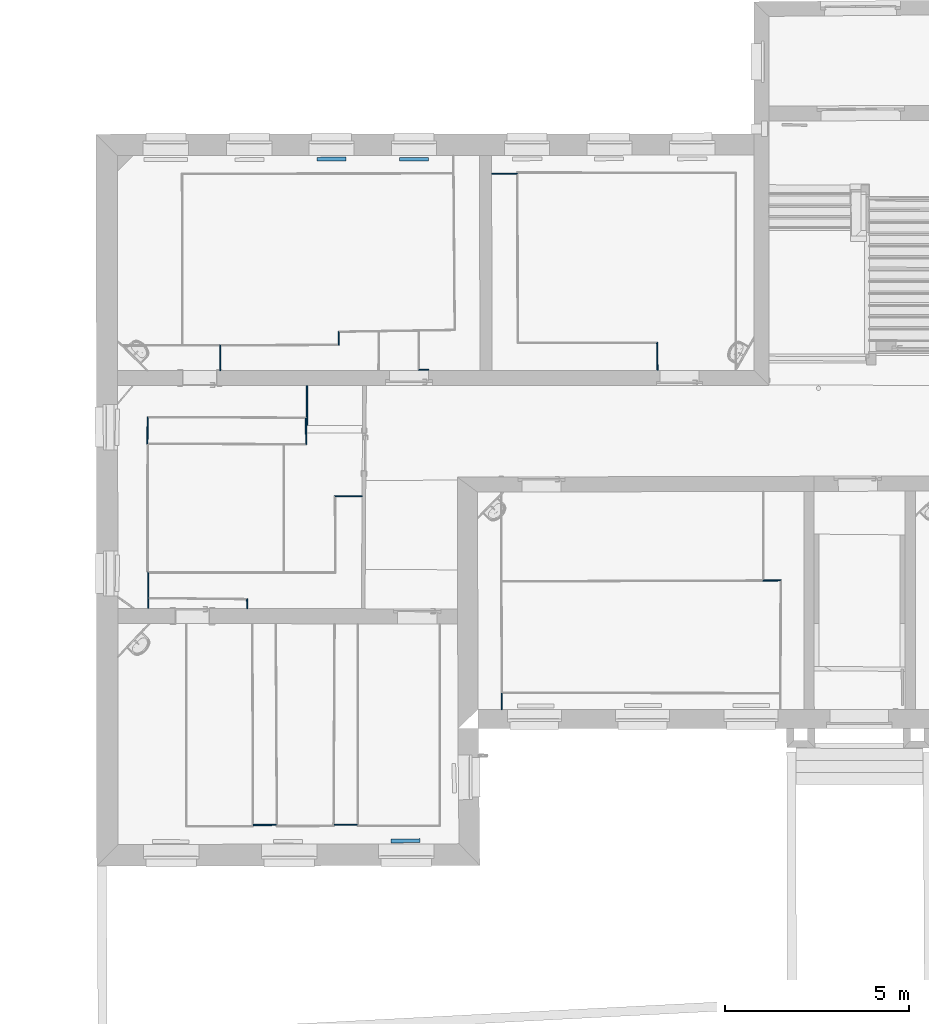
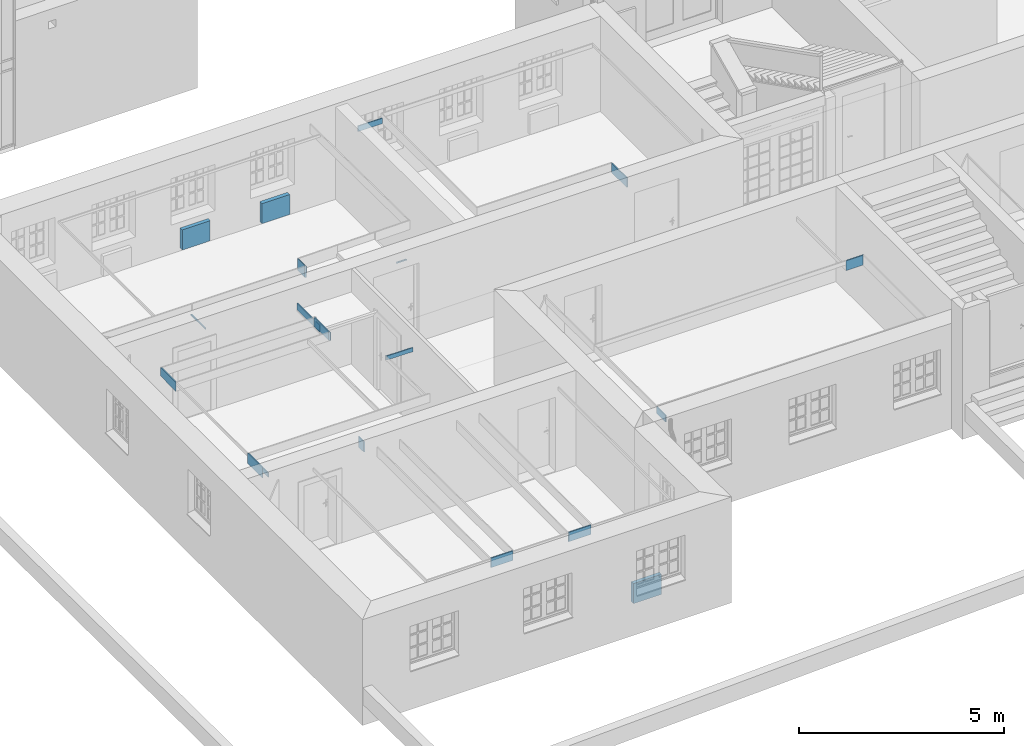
# One storey, part 58 of 196: 20 walls.
"""IFC2X3 building model written with IfcOpenShell, lengths in metres."""

from ifc_helpers import new_model, entity, si_unit, converted_unit, derived_unit, money_unit, direction, frame, origin_with_axes, place, context, subcontext, project, spatial, polyline, outline, extrude, material, layer, layer_set, layer_usage, type_object, element, save


model = new_model("IFC2X3")

# Units and contexts
model_context = context("Model", 3, precision=1e-05, world=origin_with_axes(), true_north=direction((0.0, 1.0)))
body_context = subcontext(model_context, "Body", "Model", "MODEL_VIEW")
ifc_project = project(units=[si_unit("LENGTHUNIT", "METRE"), si_unit("AREAUNIT", "SQUARE_METRE"), si_unit("VOLUMEUNIT", "CUBIC_METRE"), converted_unit("PLANEANGLEUNIT", "DEGREE", entity("IfcPlaneAngleMeasure", 0.0174532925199), si_unit("PLANEANGLEUNIT", "RADIAN"), dimensions=[0, 0, 0, 0, 0, 0, 0]), money_unit("EUR"), converted_unit("TIMEUNIT", "Year", entity("IfcTimeMeasure", 31556926.0), si_unit("TIMEUNIT", "SECOND"), dimensions=[0, 0, 1, 0, 0, 0, 0]), si_unit("MASSUNIT", "GRAM", prefix="KILO"), si_unit("THERMODYNAMICTEMPERATUREUNIT", "DEGREE_CELSIUS"), si_unit("LUMINOUSINTENSITYUNIT", "LUMEN"), si_unit("ENERGYUNIT", "JOULE", prefix="MEGA"), derived_unit("THERMALCONDUCTANCEUNIT", [(si_unit("POWERUNIT", "WATT"), 1), (si_unit("LENGTHUNIT", "METRE"), -1), (si_unit("THERMODYNAMICTEMPERATUREUNIT", "KELVIN"), -1)]), derived_unit("SPECIFICHEATCAPACITYUNIT", [(si_unit("ENERGYUNIT", "JOULE"), 1), (si_unit("MASSUNIT", "GRAM", prefix="KILO"), -1), (si_unit("THERMODYNAMICTEMPERATUREUNIT", "KELVIN"), -1)]), derived_unit("MASSDENSITYUNIT", [(si_unit("MASSUNIT", "GRAM", prefix="KILO"), 1), (si_unit("VOLUMEUNIT", "CUBIC_METRE"), -1)])], contexts=[model_context])

# Site, building, storey
site_placement = place(None, origin_with_axes())
site = spatial("IfcSite", under=ifc_project, at=site_placement, Name="Gelände", CompositionType="ELEMENT")
building_placement = place(site_placement, origin_with_axes())
building = spatial("IfcBuilding", under=site, at=building_placement, Name="Gebäude", CompositionType="ELEMENT")
storey_placement = place(building_placement, frame((0.0, 0.0, -3.0), z_axis=(0.0, 0.0, 1.0), x_axis=(1.0, 0.0, 0.0)))
storey = spatial("IfcBuildingStorey", under=building, at=storey_placement, Name="KELLERGESCHOSS", CompositionType="ELEMENT", Elevation=-3.0)

# Walls
ifc_material_1 = material(Name="43_Gipskarton")
ifc_layer_1 = layer(ifc_material_1, 0.03, ventilated="UNKNOWN")
ifc_layer_set_1 = layer_set([ifc_layer_1], Name="43_Gipskarton 0.03")
ifc_layer_usage_1 = layer_usage(ifc_layer_set_1, "AXIS2", "NEGATIVE", 0.03)
wall_type_1 = type_object("IfcWallType", Name="43_Gipskarton 30", PredefinedType="ELEMENTEDWALL")
wall_1_placement = place(storey_placement, frame((-24.7641975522, 20.3740918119, 2.09), z_axis=(0.0, 0.0, 1.0), x_axis=(0.000311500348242, -0.999999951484, 0.0)))
element("IfcWallStandardCase", 1, at=wall_1_placement, inside=storey, type_object=wall_type_1, material=ifc_layer_usage_1, Name="Wand-039", ObjectType="ELEMENTEDWALL", context=body_context, shape_type="SweptSolid", body=[
    extrude(outline(polyline([(0.0, 0.0), (0.702232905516, 0.0), (0.702232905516, 0.03), (0.0299168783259, 0.03), (0.0, 0.0)])), origin_with_axes(), (0.0, 0.0, 1.0), 0.04),
])
ifc_layer_usage_2 = layer_usage(ifc_layer_set_1, "AXIS2", "NEGATIVE", 0.0)
wall_2_placement = place(storey_placement, frame((-21.5516281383, 20.3840060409, 2.09), z_axis=(0.0, 0.0, 1.0), x_axis=(-0.000432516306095, 0.999999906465, 0.0)))
element("IfcWallStandardCase", 2, at=wall_2_placement, inside=storey, type_object=wall_type_1, material=ifc_layer_usage_2, Name="Wand-040", ObjectType="ELEMENTEDWALL", context=body_context, shape_type="SweptSolid", body=[
    extrude(outline(polyline([(-0.0299204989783, -0.03), (0.327169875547, -0.03), (0.356711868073, 0.0), (0.0, 0.0), (-0.0299204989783, -0.03)])), origin_with_axes(), (0.0, 0.0, 1.0), 0.35),
])
ifc_layer_usage_3 = layer_usage(ifc_layer_set_1, "AXIS2", "NEGATIVE", 0.03)
wall_3_placement = place(storey_placement, frame((-19.3750596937, 19.6733486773, 2.17), z_axis=(0.0, 0.0, 1.0), x_axis=(0.999999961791, 0.000276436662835, 0.0)))
element("IfcWallStandardCase", 3, at=wall_3_placement, inside=storey, type_object=wall_type_1, material=ifc_layer_usage_3, Name="Wand-040", ObjectType="ELEMENTEDWALL", context=body_context, shape_type="SweptSolid", body=[
    extrude(outline(polyline([(0.0, 0.0), (0.284594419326, 0.0), (0.284594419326, 0.03), (0.0300248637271, 0.03), (0.0, 0.0)])), origin_with_axes(), (0.0, 0.0, 1.0), 0.02),
])
ifc_layer_usage_4 = layer_usage(ifc_layer_set_1, "AXIS2", "NEGATIVE", 0.0)
wall_4_placement = place(storey_placement, frame((-12.8690663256, 20.4433038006, 2.16), z_axis=(0.0, 0.0, 1.0), x_axis=(0.0190736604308, -0.999818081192, 0.0)))
element("IfcWallStandardCase", 4, at=wall_4_placement, inside=storey, type_object=wall_type_1, material=ifc_layer_usage_4, Name="Wand-044", ObjectType="ELEMENTEDWALL", context=body_context, shape_type="SweptSolid", body=[
    extrude(outline(polyline([(0.0294475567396, -0.03), (0.767728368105, -0.03), (0.768292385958, 0.0), (0.0, 0.0), (0.0294475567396, -0.03)])), origin_with_axes(), (0.0, 0.0, 1.0), 0.28),
])
ifc_layer_usage_5 = layer_usage(ifc_layer_set_1, "AXIS2", "NEGATIVE", 0.03)
wall_5_placement = place(storey_placement, frame((-22.410251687, 19.2625095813, 2.09963508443), z_axis=(0.0, 0.0, 1.0), x_axis=(-0.000729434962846, -0.999999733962, 0.0)))
element("IfcWallStandardCase", 5, at=wall_5_placement, inside=storey, type_object=wall_type_1, material=ifc_layer_usage_5, Name="Wand-045", ObjectType="ELEMENTEDWALL", context=body_context, shape_type="SweptSolid", body=[
    extrude(outline(polyline([(0.0, 0.0), (0.856344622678, 0.0), (0.886408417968, 0.03), (-3.01761609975e-05, 0.03), (0.0, 0.0)])), origin_with_axes(), (0.0, 0.0, 1.0), 0.200364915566),
])
ifc_layer_usage_6 = layer_usage(ifc_layer_set_1, "AXIS2", "NEGATIVE", 0.03)
wall_6_placement = place(storey_placement, frame((-22.4108763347, 18.4061651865, 2.09963508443), z_axis=(0.0, 0.0, 1.0), x_axis=(0.00827161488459, -0.999965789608, 0.0)))
element("IfcWallStandardCase", 6, at=wall_6_placement, inside=storey, type_object=wall_type_1, material=ifc_layer_usage_6, Name="Wand-045", ObjectType="ELEMENTEDWALL", context=body_context, shape_type="SweptSolid", body=[
    extrude(outline(polyline([(0.0300018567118, 0.0), (0.224946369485, 0.0), (0.224946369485, 0.03), (0.0303356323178, 0.03), (0.0300018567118, 0.0)])), origin_with_axes(), (0.0, 0.0, 1.0), 0.200364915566),
])
ifc_layer_usage_7 = layer_usage(ifc_layer_set_1, "AXIS2", "NEGATIVE", 0.0)
wall_7_placement = place(storey_placement, frame((-22.4108763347, 18.4061651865, 2.16), z_axis=(0.0, 0.0, 1.0), x_axis=(0.00827161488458, -0.999965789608, 0.0)))
element("IfcWallStandardCase", 7, at=wall_7_placement, inside=storey, type_object=wall_type_1, material=ifc_layer_usage_7, Name="Wand-045", ObjectType="ELEMENTEDWALL", context=body_context, shape_type="SweptSolid", body=[
    extrude(outline(polyline([(0.0296680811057, -0.03), (0.721905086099, -0.03), (0.752248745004, 0.0), (0.0300018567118, 0.0), (0.0296680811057, -0.03)])), origin_with_axes(), (0.0, 0.0, 1.0), 0.26),
])
ifc_layer_usage_8 = layer_usage(ifc_layer_set_1, "AXIS2", "NEGATIVE", 0.03)
wall_8_placement = place(storey_placement, frame((-16.664766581, 25.0380456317, 2.16), z_axis=(0.0, 0.0, 1.0), x_axis=(-0.999999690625, 0.00078660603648, 0.0)))
element("IfcWallStandardCase", 8, at=wall_8_placement, inside=storey, type_object=wall_type_1, material=ifc_layer_usage_8, Name="Wand-046", ObjectType="ELEMENTEDWALL", context=body_context, shape_type="SweptSolid", body=[
    extrude(outline(polyline([(0.0, 0.0), (0.714397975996, 0.0), (0.714294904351, 0.03), (0.0299269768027, 0.03), (0.0, 0.0)])), origin_with_axes(), (0.0, 0.0, 1.0), 0.16),
])
ifc_layer_usage_9 = layer_usage(ifc_layer_set_1, "AXIS2", "NEGATIVE", 0.03)
wall_9_placement = place(storey_placement, frame((-26.7422881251, 18.4185257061, 2.16), z_axis=(0.0, 0.0, 1.0), x_axis=(-0.00799408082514, -0.999968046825, 0.0)))
element("IfcWallStandardCase", 9, at=wall_9_placement, inside=storey, type_object=wall_type_1, material=ifc_layer_usage_9, Name="Wand-047", ObjectType="ELEMENTEDWALL", context=body_context, shape_type="SweptSolid", body=[
    extrude(outline(polyline([(0.0, 0.0), (0.751063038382, 0.0), (0.720916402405, 0.03), (0.0298461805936, 0.03), (0.0, 0.0)])), origin_with_axes(), (0.0, 0.0, 1.0), 0.26),
])
ifc_layer_usage_10 = layer_usage(ifc_layer_set_1, "AXIS2", "NEGATIVE", 0.03)
wall_10_placement = place(storey_placement, frame((-26.7248672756, 13.5035001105, 2.3), z_axis=(0.0, 0.0, 1.0), x_axis=(-3.30260602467e-05, -0.999999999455, 0.0)))
element("IfcWallStandardCase", 10, at=wall_10_placement, inside=storey, type_object=wall_type_1, material=ifc_layer_usage_10, Name="Wand-050", ObjectType="ELEMENTEDWALL", context=body_context, shape_type="SweptSolid", body=[
    extrude(outline(polyline([(0.0300016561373, 0.0), (0.299256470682, 0.0), (0.299290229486, 0.03), (0.0303168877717, 0.03), (0.0300016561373, 0.0)])), origin_with_axes(), (0.0, 0.0, 1.0), 0.12),
])
ifc_layer_usage_11 = layer_usage(ifc_layer_set_1, "AXIS2", "NEGATIVE", 0.03)
wall_11_placement = place(storey_placement, frame((-26.7248443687, 14.1971021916, 2.11), z_axis=(0.0, 0.0, 1.0), x_axis=(-3.30260602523e-05, -0.999999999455, 0.0)))
element("IfcWallStandardCase", 11, at=wall_11_placement, inside=storey, type_object=wall_type_1, material=ifc_layer_usage_11, Name="Wand-050", ObjectType="ELEMENTEDWALL", context=body_context, shape_type="SweptSolid", body=[
    extrude(outline(polyline([(0.0, 0.0), (0.723603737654, 0.0), (0.693917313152, 0.03), (0.0300044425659, 0.03), (0.0, 0.0)])), origin_with_axes(), (0.0, 0.0, 1.0), 0.31),
])
ifc_layer_usage_12 = layer_usage(ifc_layer_set_1, "AXIS2", "NEGATIVE", 0.0)
wall_12_placement = place(storey_placement, frame((-24.0126444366, 13.4749112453, 2.11), z_axis=(0.0, 0.0, 1.0), x_axis=(0.0322938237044, -0.999478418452, 0.0)))
element("IfcWallStandardCase", 12, at=wall_12_placement, inside=storey, type_object=wall_type_1, material=ifc_layer_usage_12, Name="Wand-052", ObjectType="ELEMENTEDWALL", context=body_context, shape_type="SweptSolid", body=[
    extrude(outline(polyline([(0.0287415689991, -0.03), (0.272958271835, -0.03), (0.273962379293, 0.0), (0.0, 0.0), (0.0287415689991, -0.03)])), origin_with_axes(), (0.0, 0.0, 1.0), 0.31),
])
ifc_layer_usage_13 = layer_usage(ifc_layer_set_1, "AXIS2", "NEGATIVE", 0.03)
wall_13_placement = place(storey_placement, frame((-23.8825016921, 7.30567802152, 2.18), z_axis=(0.0, 0.0, 1.0), x_axis=(0.99999756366, 0.00220741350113, 0.0)))
element("IfcWallStandardCase", 13, at=wall_13_placement, inside=storey, type_object=wall_type_1, material=ifc_layer_usage_13, Name="Wand-052", ObjectType="ELEMENTEDWALL", context=body_context, shape_type="SweptSolid", body=[
    extrude(outline(polyline([(0.0300000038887, 0.0), (0.651134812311, 0.0), (0.651036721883, 0.03), (0.0299847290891, 0.03), (0.0300000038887, 0.0)])), origin_with_axes(), (0.0, 0.0, 1.0), 0.28),
])
ifc_layer_usage_14 = layer_usage(ifc_layer_set_1, "AXIS2", "NEGATIVE", 0.03)
wall_14_placement = place(storey_placement, frame((-21.6900011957, 7.31051778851, 2.18), z_axis=(0.0, 0.0, 1.0), x_axis=(0.99999756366, 0.00220741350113, 0.0)))
element("IfcWallStandardCase", 14, at=wall_14_placement, inside=storey, type_object=wall_type_1, material=ifc_layer_usage_14, Name="Wand-053", ObjectType="ELEMENTEDWALL", context=body_context, shape_type="SweptSolid", body=[
    extrude(outline(polyline([(0.0300007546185, 0.0), (0.661140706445, 0.0), (0.661213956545, 0.03), (0.0302135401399, 0.03), (0.0300007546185, 0.0)])), origin_with_axes(), (0.0, 0.0, 1.0), 0.28),
])
ifc_layer_usage_15 = layer_usage(ifc_layer_set_1, "AXIS2", "NEGATIVE", 0.03)
wall_15_placement = place(storey_placement, frame((-20.8007062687, 16.2642362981, 2.16), z_axis=(0.0, 0.0, 1.0), x_axis=(-0.999946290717, 0.0103641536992, 0.0)))
element("IfcWallStandardCase", 15, at=wall_15_placement, inside=storey, type_object=wall_type_1, material=ifc_layer_usage_15, Name="Wand-054", ObjectType="ELEMENTEDWALL", context=body_context, shape_type="SweptSolid", body=[
    extrude(outline(polyline([(0.100001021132, 0.0), (0.851326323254, 0.0), (0.820841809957, 0.03), (0.0998654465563, 0.03), (0.100001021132, 0.0)])), origin_with_axes(), (0.0, 0.0, 1.0), 0.12),
])
ifc_layer_usage_16 = layer_usage(ifc_layer_set_1, "AXIS2", "NEGATIVE", 0.0)
wall_16_placement = place(storey_placement, frame((-9.54057012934, 13.9516949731, 2.15), z_axis=(0.0, 0.0, 1.0), x_axis=(-0.999994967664, -0.00317248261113, 0.0)))
element("IfcWallStandardCase", 16, at=wall_16_placement, inside=storey, type_object=wall_type_1, material=ifc_layer_usage_16, Name="Wand-056", ObjectType="ELEMENTEDWALL", context=body_context, shape_type="SweptSolid", body=[
    extrude(outline(polyline([(-0.0301545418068, -0.03), (0.446131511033, -0.03), (0.476315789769, 0.0), (0.0, 0.0), (-0.0301545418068, -0.03)])), origin_with_axes(), (0.0, 0.0, 1.0), 0.29),
])
ifc_layer_usage_17 = layer_usage(ifc_layer_set_1, "AXIS2", "NEGATIVE", 0.0)
wall_17_placement = place(storey_placement, frame((-17.0888684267, 10.9298152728, 2.24), z_axis=(0.0, 0.0, 1.0), x_axis=(0.00338154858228, -0.999994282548, 0.0)))
element("IfcWallStandardCase", 17, at=wall_17_placement, inside=storey, type_object=wall_type_1, material=ifc_layer_usage_17, Name="Wand-059", ObjectType="ELEMENTEDWALL", context=body_context, shape_type="SweptSolid", body=[
    extrude(outline(polyline([(0.0298568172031, -0.03), (0.470792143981, -0.03), (0.470792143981, 0.0), (0.0300003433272, 0.0), (0.0298568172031, -0.03)])), origin_with_axes(), (0.0, 0.0, 1.0), 0.2),
])
ifc_material_2 = material(Name="01_ALLGEMEIN - BAUTEIL")
ifc_layer_2 = layer(ifc_material_2, 0.105, ventilated="UNKNOWN")
ifc_layer_set_2 = layer_set([ifc_layer_2], Name="01_ALLGEMEIN - BAUTEIL 0.105")
ifc_layer_usage_18 = layer_usage(ifc_layer_set_2, "AXIS2", "NEGATIVE", 0.0)
wall_type_2 = type_object("IfcWallType", Name="01_ALLGEMEIN - BAUTEIL 105", PredefinedType="ELEMENTEDWALL")
wall_18_placement = place(storey_placement, frame((-20.1152619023, 6.94016321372, 0.0805299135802), z_axis=(0.0, 0.0, 1.0), x_axis=(0.999961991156, 0.00871872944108, 0.0)))
element("IfcWallStandardCase", 18, at=wall_18_placement, inside=storey, type_object=wall_type_2, material=ifc_layer_usage_18, Name="Wand-038", ObjectType="ELEMENTEDWALL", context=body_context, shape_type="SweptSolid", body=[
    extrude(outline(polyline([(0.0, -0.105), (0.792219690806, -0.105), (0.792219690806, 0.0), (0.0, 0.0), (0.0, -0.105)])), origin_with_axes(), (0.0, 0.0, 1.0), 0.597873),
])
ifc_layer_usage_19 = layer_usage(ifc_layer_set_2, "AXIS2", "NEGATIVE", 0.105)
wall_19_placement = place(storey_placement, frame((-22.1197060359, 25.3621617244, 0.0805299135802), z_axis=(0.0, 0.0, 1.0), x_axis=(0.999991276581, 0.00417693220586, 0.0)))
element("IfcWallStandardCase", 19, at=wall_19_placement, inside=storey, type_object=wall_type_2, material=ifc_layer_usage_19, Name="Wand-038", ObjectType="ELEMENTEDWALL", context=body_context, shape_type="SweptSolid", body=[
    extrude(outline(polyline([(0.0, 0.0), (0.78621496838, 0.0), (0.78621496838, 0.105), (0.0, 0.105), (0.0, 0.0)])), origin_with_axes(), (0.0, 0.0, 1.0), 0.597873),
])
ifc_layer_usage_20 = layer_usage(ifc_layer_set_2, "AXIS2", "NEGATIVE", 0.105)
wall_20_placement = place(storey_placement, frame((-19.8772730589, 25.3602283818, 0.0805299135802), z_axis=(0.0, 0.0, 1.0), x_axis=(0.999997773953, 0.00210999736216, 0.0)))
element("IfcWallStandardCase", 20, at=wall_20_placement, inside=storey, type_object=wall_type_2, material=ifc_layer_usage_20, Name="Wand-039", ObjectType="ELEMENTEDWALL", context=body_context, shape_type="SweptSolid", body=[
    extrude(outline(polyline([(0.0, 0.0), (0.782117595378, 0.0), (0.782117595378, 0.105), (0.0, 0.105), (0.0, 0.0)])), origin_with_axes(), (0.0, 0.0, 1.0), 0.597873),
])

save(model, "model.ifc")
